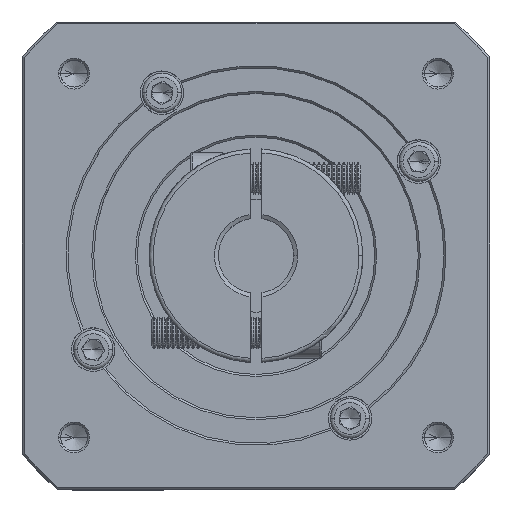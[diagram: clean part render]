
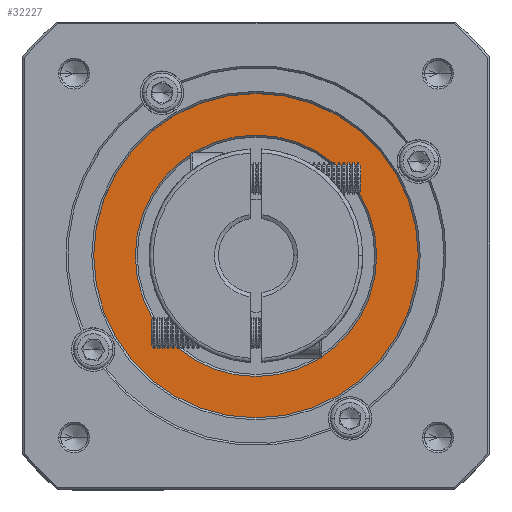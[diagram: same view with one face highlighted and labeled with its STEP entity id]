
A CAD part, top view. The second image highlights one B-rep face of the part: STEP entity #32227.
In plain terms, the highlighted planar face has unit normal (0, 0, 1).
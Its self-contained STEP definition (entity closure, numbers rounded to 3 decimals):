
#2586 = CARTESIAN_POINT ( 'NONE',  ( 33.129, 105.589, -16.106 ) ) ;
#5800 = DIRECTION ( 'NONE',  ( 1., 0., 0. ) ) ;
#8333 = VERTEX_POINT ( 'NONE', #8975 ) ;
#8975 = CARTESIAN_POINT ( 'NONE',  ( 74.129, 136.089, -16.106 ) ) ;
#9298 = CARTESIAN_POINT ( 'NONE',  ( 74.129, 105.589, -16.106 ) ) ;
#11179 = ORIENTED_EDGE ( 'NONE', *, *, #61324, .T. ) ;
#11336 = CARTESIAN_POINT ( 'NONE',  ( 74.129, 105.589, -16.106 ) ) ;
#14861 = CARTESIAN_POINT ( 'NONE',  ( 115.129, 105.589, -16.106 ) ) ;
#17469 = DIRECTION ( 'NONE',  ( 1., 0., 0. ) ) ;
#18845 = EDGE_CURVE ( 'NONE', #55500, #8333, #19015, .T. ) ;
#19015 = CIRCLE ( 'NONE', #67936, 30.5 ) ;
#20040 = CIRCLE ( 'NONE', #45624, 41. ) ;
#22721 = EDGE_LOOP ( 'NONE', ( #27370, #95148 ) ) ;
#23670 = AXIS2_PLACEMENT_3D ( 'NONE', #9298, #97958, #17469 ) ;
#26651 = DIRECTION ( 'NONE',  ( 1., 0., 0. ) ) ;
#27370 = ORIENTED_EDGE ( 'NONE', *, *, #43210, .T. ) ;
#27561 = EDGE_CURVE ( 'NONE', #41769, #96104, #74224, .T. ) ;
#28483 = AXIS2_PLACEMENT_3D ( 'NONE', #56586, #65912, #38276 ) ;
#32227 = ADVANCED_FACE ( 'NONE', ( #93246, #55496 ), #68385, .T. ) ;
#32253 = DIRECTION ( 'NONE',  ( 0., 0., 1. ) ) ;
#38276 = DIRECTION ( 'NONE',  ( 0., -1., 0. ) ) ;
#41769 = VERTEX_POINT ( 'NONE', #2586 ) ;
#42068 = EDGE_LOOP ( 'NONE', ( #109817, #11179 ) ) ;
#43210 = EDGE_CURVE ( 'NONE', #96104, #41769, #20040, .T. ) ;
#45624 = AXIS2_PLACEMENT_3D ( 'NONE', #87710, #79940, #26651 ) ;
#55496 = FACE_BOUND ( 'NONE', #42068, .T. ) ;
#55500 = VERTEX_POINT ( 'NONE', #99655 ) ;
#56586 = CARTESIAN_POINT ( 'NONE',  ( 74.129, 105.589, -16.106 ) ) ;
#57961 = CARTESIAN_POINT ( 'NONE',  ( 74.129, 105.589, -16.106 ) ) ;
#61324 = EDGE_CURVE ( 'NONE', #8333, #55500, #74977, .T. ) ;
#65912 = DIRECTION ( 'NONE',  ( 0., 0., -1. ) ) ;
#67936 = AXIS2_PLACEMENT_3D ( 'NONE', #11336, #74684, #110096 ) ;
#68385 = PLANE ( 'NONE',  #104779 ) ;
#74224 = CIRCLE ( 'NONE', #23670, 41. ) ;
#74684 = DIRECTION ( 'NONE',  ( 0., 0., -1. ) ) ;
#74977 = CIRCLE ( 'NONE', #28483, 30.5 ) ;
#79940 = DIRECTION ( 'NONE',  ( 0., 0., 1. ) ) ;
#87710 = CARTESIAN_POINT ( 'NONE',  ( 74.129, 105.589, -16.106 ) ) ;
#93246 = FACE_OUTER_BOUND ( 'NONE', #22721, .T. ) ;
#95148 = ORIENTED_EDGE ( 'NONE', *, *, #27561, .T. ) ;
#96104 = VERTEX_POINT ( 'NONE', #14861 ) ;
#97958 = DIRECTION ( 'NONE',  ( 0., 0., 1. ) ) ;
#99655 = CARTESIAN_POINT ( 'NONE',  ( 74.129, 75.089, -16.106 ) ) ;
#104779 = AXIS2_PLACEMENT_3D ( 'NONE', #57961, #32253, #5800 ) ;
#109817 = ORIENTED_EDGE ( 'NONE', *, *, #18845, .T. ) ;
#110096 = DIRECTION ( 'NONE',  ( 0., -1., 0. ) ) ;
